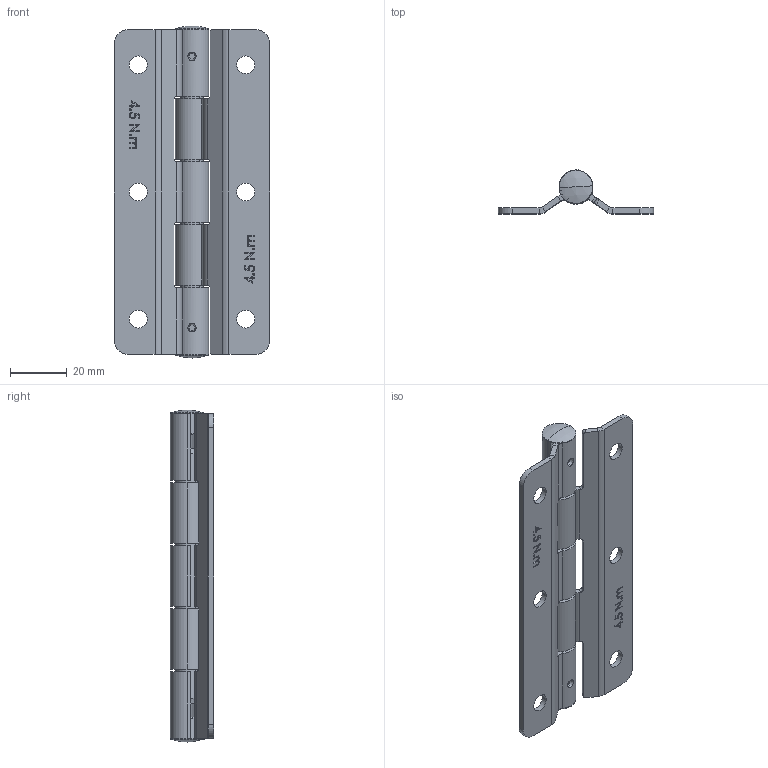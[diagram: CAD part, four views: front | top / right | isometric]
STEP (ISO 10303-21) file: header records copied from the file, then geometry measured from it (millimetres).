
FILE_DESCRIPTION (( 'STEP AP203' ), '1' );
FILE_NAME ('6213747.STEP', '2021-01-04T08:37:21', ( '' ), ( '' ), 'SwSTEP 2.0', 'SolidWorks 2019', '' );
FILE_SCHEMA (( 'CONFIG_CONTROL_DESIGN' ));
Length unit declared in the file: millimetre
Products named in the file (5): 36600129_Bouchon; 6213747_Coté male; 34240169_Goupille Ø8x90_L65; 6213747; 6213747_Coté femelle_sans entailles
Assembly tree (5 placements, depth 2):
  6213747
    6213747_Coté male
    6213747_Coté femelle_sans entailles
    34240169_Goupille Ø8x90_L65
    36600129_Bouchon  x2
Bounding box: 55 x 15.5 x 117.5 mm (x, y, z)
Volume: 21428.4 mm3; surface area: 22105.8 mm2
Topology: 5 solids, 5 shells, 316 faces, 804 edges, 520 vertices
Faces by surface type: plane 157, cylinder 89, bspline 50, cone 12, sphere 8
Entity records: 12281 total; most frequent: CARTESIAN_POINT 4532, ORIENTED_EDGE 1560, DIRECTION 1374, EDGE_CURVE 780, VERTEX_POINT 505, VECTOR 488, LINE 488, AXIS2_PLACEMENT_3D 443
